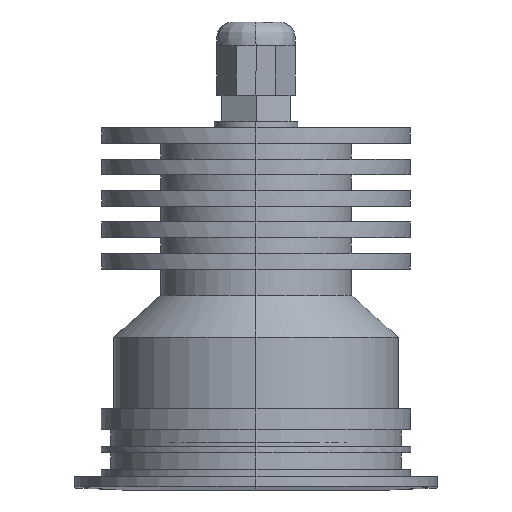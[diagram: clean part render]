
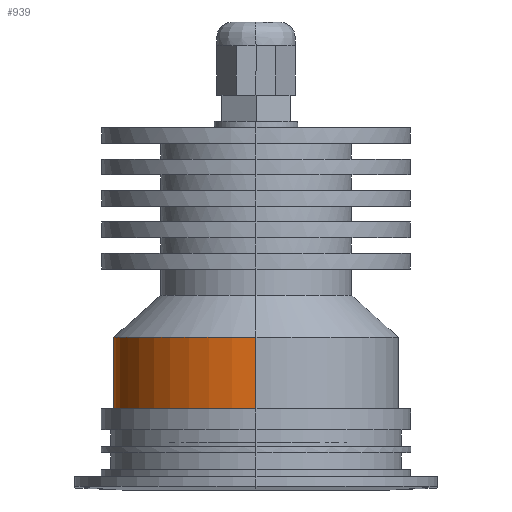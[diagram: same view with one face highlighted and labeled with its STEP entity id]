
A CAD part, left-side view. The second image highlights one B-rep face of the part: STEP entity #939.
In plain terms, the highlighted free-form (B-spline) face has degree [1, 2] with [2, 5] control points.
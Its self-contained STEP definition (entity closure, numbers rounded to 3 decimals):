
#939=ADVANCED_FACE('',(#2309),#44153,.T.);
#2309=FACE_OUTER_BOUND('',#3782,.T.);
#3782=EDGE_LOOP('',(#7995,#7996,#7997,#7998));
#7995=ORIENTED_EDGE('',*,*,#31284,.F.);
#7996=ORIENTED_EDGE('',*,*,#31286,.T.);
#7997=ORIENTED_EDGE('',*,*,#31287,.T.);
#7998=ORIENTED_EDGE('',*,*,#31288,.T.);
#11998=(
BOUNDED_CURVE()
B_SPLINE_CURVE(2,(#86530,#86531,#86532,#86533,#86534),.UNSPECIFIED.,.F.,
 .F.)
B_SPLINE_CURVE_WITH_KNOTS((3,2,3),(0.,61.189,122.378),
 .UNSPECIFIED.)
CURVE()
GEOMETRIC_REPRESENTATION_ITEM()
RATIONAL_B_SPLINE_CURVE((1.,0.707,1.,0.707,1.))
REPRESENTATION_ITEM('')
);
#11999=(
BOUNDED_CURVE()
B_SPLINE_CURVE(2,(#86547,#86548,#86549,#86550,#86551),.UNSPECIFIED.,.F.,
 .F.)
B_SPLINE_CURVE_WITH_KNOTS((3,2,3),(0.,61.189,122.378),
 .UNSPECIFIED.)
CURVE()
GEOMETRIC_REPRESENTATION_ITEM()
RATIONAL_B_SPLINE_CURVE((1.,0.707,1.,0.707,1.))
REPRESENTATION_ITEM('')
);
#16089=PCURVE('',#44152,#22849);
#16091=PCURVE('',#44153,#22851);
#16092=PCURVE('',#44153,#22852);
#16093=PCURVE('',#44153,#22853);
#16094=PCURVE('',#44153,#22854);
#16095=PCURVE('',#44154,#22855);
#16619=PCURVE('',#44248,#23379);
#16621=PCURVE('',#44248,#23381);
#22849=DEFINITIONAL_REPRESENTATION('',(#37419),#122661);
#22851=DEFINITIONAL_REPRESENTATION('',(#37422),#122661);
#22852=DEFINITIONAL_REPRESENTATION('',(#37424),#122661);
#22853=DEFINITIONAL_REPRESENTATION('',(#37425),#122661);
#22854=DEFINITIONAL_REPRESENTATION('',(#37427),#122661);
#22855=DEFINITIONAL_REPRESENTATION('',(#37428),#122661);
#23379=DEFINITIONAL_REPRESENTATION('',(#38135),#122661);
#23381=DEFINITIONAL_REPRESENTATION('',(#38137),#122661);
#27904=SURFACE_CURVE('',#11998,(#16089,#16091),.PCURVE_S1.);
#27906=SURFACE_CURVE('',#37423,(#16092,#16621),.PCURVE_S1.);
#27907=SURFACE_CURVE('',#11999,(#16093,#16095),.PCURVE_S1.);
#27908=SURFACE_CURVE('',#37426,(#16094,#16619),.PCURVE_S1.);
#31284=EDGE_CURVE('',#42757,#42916,#27904,.T.);
#31286=EDGE_CURVE('',#42757,#42756,#27906,.T.);
#31287=EDGE_CURVE('',#42756,#42917,#27907,.T.);
#31288=EDGE_CURVE('',#42917,#42916,#27908,.T.);
#37419=B_SPLINE_CURVE_WITH_KNOTS('',1,(#86535,#86536),.UNSPECIFIED.,.F.,
 .F.,(2,2),(0.,122.378),.UNSPECIFIED.);
#37422=B_SPLINE_CURVE_WITH_KNOTS('',1,(#86541,#86542),.UNSPECIFIED.,.F.,
 .F.,(2,2),(0.,122.378),.UNSPECIFIED.);
#37423=B_SPLINE_CURVE_WITH_KNOTS('',1,(#86543,#86544),.UNSPECIFIED.,.F.,
 .F.,(2,2),(39.894,60.039),.UNSPECIFIED.);
#37424=B_SPLINE_CURVE_WITH_KNOTS('',1,(#86545,#86546),.UNSPECIFIED.,.F.,
 .F.,(2,2),(39.894,60.039),.UNSPECIFIED.);
#37425=B_SPLINE_CURVE_WITH_KNOTS('',1,(#86552,#86553),.UNSPECIFIED.,.F.,
 .F.,(2,2),(0.,122.378),.UNSPECIFIED.);
#37426=B_SPLINE_CURVE_WITH_KNOTS('',1,(#86554,#86555),.UNSPECIFIED.,.F.,
 .F.,(2,2),(-60.039,-39.894),.UNSPECIFIED.);
#37427=B_SPLINE_CURVE_WITH_KNOTS('',1,(#86556,#86557),.UNSPECIFIED.,.F.,
 .F.,(2,2),(-60.039,-39.894),.UNSPECIFIED.);
#37428=B_SPLINE_CURVE_WITH_KNOTS('',1,(#86558,#86559),.UNSPECIFIED.,.F.,
 .F.,(2,2),(0.,122.378),.UNSPECIFIED.);
#38135=B_SPLINE_CURVE_WITH_KNOTS('',1,(#90593,#90594),.UNSPECIFIED.,.F.,
 .F.,(2,2),(-60.039,-39.894),.UNSPECIFIED.);
#38137=B_SPLINE_CURVE_WITH_KNOTS('',1,(#90602,#90603),.UNSPECIFIED.,.F.,
 .F.,(2,2),(39.894,60.039),.UNSPECIFIED.);
#42756=VERTEX_POINT('',#86015);
#42757=VERTEX_POINT('',#86016);
#42916=VERTEX_POINT('',#86175);
#42917=VERTEX_POINT('',#86176);
#44152=(
BOUNDED_SURFACE()
B_SPLINE_SURFACE(1,2,((#84183,#84184,#84185,#84186,#84187),(#84188,#84189,
#84190,#84191,#84192)),.UNSPECIFIED.,.F.,.F.,.F.)
B_SPLINE_SURFACE_WITH_KNOTS((2,2),(3,2,3),(38.343,39.894),
(0.,61.189,122.378),.UNSPECIFIED.)
GEOMETRIC_REPRESENTATION_ITEM()
RATIONAL_B_SPLINE_SURFACE(((1.,0.707,1.,0.707,1.),
(1.,0.707,1.,0.707,1.)))
REPRESENTATION_ITEM('')
SURFACE()
);
#44153=(
BOUNDED_SURFACE()
B_SPLINE_SURFACE(1,2,((#84193,#84194,#84195,#84196,#84197),(#84198,#84199,
#84200,#84201,#84202)),.UNSPECIFIED.,.F.,.F.,.F.)
B_SPLINE_SURFACE_WITH_KNOTS((2,2),(3,2,3),(39.894,60.039),
(0.,61.189,122.378),.UNSPECIFIED.)
GEOMETRIC_REPRESENTATION_ITEM()
RATIONAL_B_SPLINE_SURFACE(((1.,0.707,1.,0.707,1.),
(1.,0.707,1.,0.707,1.)))
REPRESENTATION_ITEM('')
SURFACE()
);
#44154=(
BOUNDED_SURFACE()
B_SPLINE_SURFACE(1,2,((#84203,#84204,#84205,#84206,#84207),(#84208,#84209,
#84210,#84211,#84212)),.UNSPECIFIED.,.F.,.F.,.F.)
B_SPLINE_SURFACE_WITH_KNOTS((2,2),(3,2,3),(60.039,72.006),
(0.,61.189,122.378),.UNSPECIFIED.)
GEOMETRIC_REPRESENTATION_ITEM()
RATIONAL_B_SPLINE_SURFACE(((1.,0.707,1.,0.707,1.),
(1.,0.707,1.,0.707,1.)))
REPRESENTATION_ITEM('')
SURFACE()
);
#44248=(
BOUNDED_SURFACE()
B_SPLINE_SURFACE(1,2,((#85163,#85164,#85165,#85166,#85167),(#85168,#85169,
#85170,#85171,#85172)),.UNSPECIFIED.,.F.,.F.,.F.)
B_SPLINE_SURFACE_WITH_KNOTS((2,2),(3,2,3),(39.894,60.039),
(122.378,183.567,244.756),.UNSPECIFIED.)
GEOMETRIC_REPRESENTATION_ITEM()
RATIONAL_B_SPLINE_SURFACE(((1.,0.707,1.,0.707,1.),
(1.,0.707,1.,0.707,1.)))
REPRESENTATION_ITEM('')
SURFACE()
);
#84183=CARTESIAN_POINT('',(-25.598,0.,8.355));
#84184=CARTESIAN_POINT('',(-25.598,25.598,8.355));
#84185=CARTESIAN_POINT('',(0.,25.598,8.355));
#84186=CARTESIAN_POINT('',(25.598,25.598,8.355));
#84187=CARTESIAN_POINT('',(25.598,0.,8.355));
#84188=CARTESIAN_POINT('',(-27.15,0.,8.355));
#84189=CARTESIAN_POINT('',(-27.15,27.15,8.355));
#84190=CARTESIAN_POINT('',(0.,27.15,8.355));
#84191=CARTESIAN_POINT('',(27.15,27.15,8.355));
#84192=CARTESIAN_POINT('',(27.15,0.,8.355));
#84193=CARTESIAN_POINT('',(-27.15,0.,8.355));
#84194=CARTESIAN_POINT('',(-27.15,27.15,8.355));
#84195=CARTESIAN_POINT('',(0.,27.15,8.355));
#84196=CARTESIAN_POINT('',(27.15,27.15,8.355));
#84197=CARTESIAN_POINT('',(27.15,0.,8.355));
#84198=CARTESIAN_POINT('',(-27.15,0.,28.499));
#84199=CARTESIAN_POINT('',(-27.15,27.15,28.499));
#84200=CARTESIAN_POINT('',(0.,27.15,28.499));
#84201=CARTESIAN_POINT('',(27.15,27.15,28.499));
#84202=CARTESIAN_POINT('',(27.15,0.,28.499));
#84203=CARTESIAN_POINT('',(-27.15,0.,28.499));
#84204=CARTESIAN_POINT('',(-27.15,27.15,28.499));
#84205=CARTESIAN_POINT('',(0.,27.15,28.499));
#84206=CARTESIAN_POINT('',(27.15,27.15,28.499));
#84207=CARTESIAN_POINT('',(27.15,0.,28.499));
#84208=CARTESIAN_POINT('',(-18.25,0.,36.499));
#84209=CARTESIAN_POINT('',(-18.25,18.25,36.499));
#84210=CARTESIAN_POINT('',(0.,18.25,36.499));
#84211=CARTESIAN_POINT('',(18.25,18.25,36.499));
#84212=CARTESIAN_POINT('',(18.25,0.,36.499));
#85163=CARTESIAN_POINT('',(27.15,0.,8.355));
#85164=CARTESIAN_POINT('',(27.15,-27.15,8.355));
#85165=CARTESIAN_POINT('',(0.,-27.15,8.355));
#85166=CARTESIAN_POINT('',(-27.15,-27.15,8.355));
#85167=CARTESIAN_POINT('',(-27.15,0.,8.355));
#85168=CARTESIAN_POINT('',(27.15,0.,28.499));
#85169=CARTESIAN_POINT('',(27.15,-27.15,28.499));
#85170=CARTESIAN_POINT('',(0.,-27.15,28.499));
#85171=CARTESIAN_POINT('',(-27.15,-27.15,28.499));
#85172=CARTESIAN_POINT('',(-27.15,0.,28.499));
#86015=CARTESIAN_POINT('',(-27.15,0.,28.499));
#86016=CARTESIAN_POINT('',(-27.15,0.,8.355));
#86175=CARTESIAN_POINT('',(27.15,0.,8.355));
#86176=CARTESIAN_POINT('',(27.15,0.,28.499));
#86530=CARTESIAN_POINT('',(-27.15,0.,8.355));
#86531=CARTESIAN_POINT('',(-27.15,27.15,8.355));
#86532=CARTESIAN_POINT('',(0.,27.15,8.355));
#86533=CARTESIAN_POINT('',(27.15,27.15,8.355));
#86534=CARTESIAN_POINT('',(27.15,0.,8.355));
#86535=CARTESIAN_POINT('',(39.894,0.));
#86536=CARTESIAN_POINT('',(39.894,122.378));
#86541=CARTESIAN_POINT('',(39.894,0.));
#86542=CARTESIAN_POINT('',(39.894,122.378));
#86543=CARTESIAN_POINT('',(-27.15,0.,8.355));
#86544=CARTESIAN_POINT('',(-27.15,0.,28.499));
#86545=CARTESIAN_POINT('',(39.894,0.));
#86546=CARTESIAN_POINT('',(60.039,0.));
#86547=CARTESIAN_POINT('',(-27.15,0.,28.499));
#86548=CARTESIAN_POINT('',(-27.15,27.15,28.499));
#86549=CARTESIAN_POINT('',(0.,27.15,28.499));
#86550=CARTESIAN_POINT('',(27.15,27.15,28.499));
#86551=CARTESIAN_POINT('',(27.15,0.,28.499));
#86552=CARTESIAN_POINT('',(60.039,0.));
#86553=CARTESIAN_POINT('',(60.039,122.378));
#86554=CARTESIAN_POINT('',(27.15,0.,28.499));
#86555=CARTESIAN_POINT('',(27.15,0.,8.355));
#86556=CARTESIAN_POINT('',(60.039,122.378));
#86557=CARTESIAN_POINT('',(39.894,122.378));
#86558=CARTESIAN_POINT('',(60.039,0.));
#86559=CARTESIAN_POINT('',(60.039,122.378));
#90593=CARTESIAN_POINT('',(60.039,122.378));
#90594=CARTESIAN_POINT('',(39.894,122.378));
#90602=CARTESIAN_POINT('',(39.894,244.756));
#90603=CARTESIAN_POINT('',(60.039,244.756));
#122661=(
GEOMETRIC_REPRESENTATION_CONTEXT(2)
PARAMETRIC_REPRESENTATION_CONTEXT()
REPRESENTATION_CONTEXT('pspace','')
);
